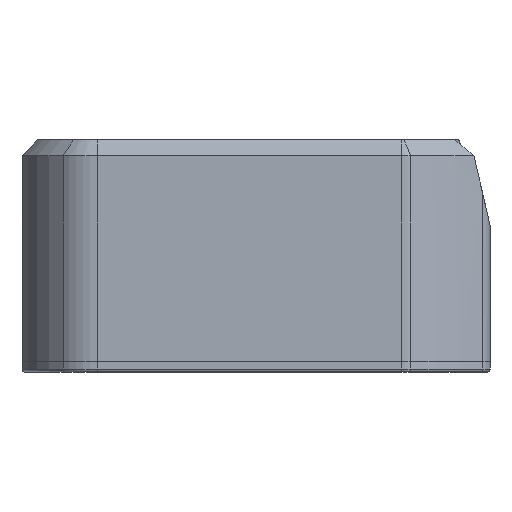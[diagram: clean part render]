
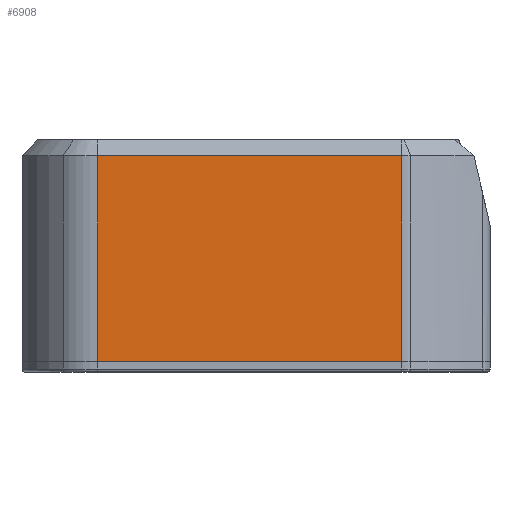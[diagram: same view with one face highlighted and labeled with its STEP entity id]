
A CAD part, left-side view. The second image highlights one B-rep face of the part: STEP entity #6908.
In plain terms, the highlighted planar face has unit normal (-1, 0, 0).
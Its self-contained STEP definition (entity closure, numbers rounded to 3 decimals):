
#1765=ORIENTED_EDGE('',*,*,#3015,.T.);
#1766=ORIENTED_EDGE('',*,*,#2624,.T.);
#1767=ORIENTED_EDGE('',*,*,#2662,.T.);
#1768=ORIENTED_EDGE('',*,*,#3050,.F.);
#2624=EDGE_CURVE('',#3556,#3558,#4353,.T.);
#2662=EDGE_CURVE('',#3558,#3583,#4373,.T.);
#3015=EDGE_CURVE('',#3823,#3556,#4639,.T.);
#3050=EDGE_CURVE('',#3823,#3583,#4670,.T.);
#3556=VERTEX_POINT('',#10691);
#3558=VERTEX_POINT('',#10697);
#3583=VERTEX_POINT('',#10774);
#3823=VERTEX_POINT('',#11491);
#4353=LINE('',#10698,#5179);
#4373=LINE('',#10773,#5199);
#4639=LINE('',#11490,#5465);
#4670=LINE('',#11561,#5496);
#5179=VECTOR('',#8555,1000.);
#5199=VECTOR('',#8637,1000.);
#5465=VECTOR('',#9325,1000.);
#5496=VECTOR('',#9404,1000.);
#5906=EDGE_LOOP('',(#1765,#1766,#1767,#1768));
#6291=FACE_BOUND('',#5906,.T.);
#6586=PLANE('',#7614);
#6908=ADVANCED_FACE('',(#6291),#6586,.F.);
#7614=AXIS2_PLACEMENT_3D('',#11560,#9402,#9403);
#8555=DIRECTION('',(0.,1.,0.));
#8637=DIRECTION('',(0.,0.,-1.));
#9325=DIRECTION('',(0.,0.,1.));
#9402=DIRECTION('',(1.,0.,0.));
#9403=DIRECTION('',(0.,0.,-1.));
#9404=DIRECTION('',(0.,1.,0.));
#10691=CARTESIAN_POINT('',(-21.5,-14.287,20.4));
#10697=CARTESIAN_POINT('',(-21.5,14.371,20.4));
#10698=CARTESIAN_POINT('',(-21.5,14.371,20.4));
#10773=CARTESIAN_POINT('',(-21.5,14.371,55.48));
#10774=CARTESIAN_POINT('',(-21.5,14.371,1.));
#11490=CARTESIAN_POINT('',(-21.5,-14.287,21.8));
#11491=CARTESIAN_POINT('',(-21.5,-14.287,1.));
#11560=CARTESIAN_POINT('',(-21.5,21.5,21.8));
#11561=CARTESIAN_POINT('',(-21.5,21.5,1.));
